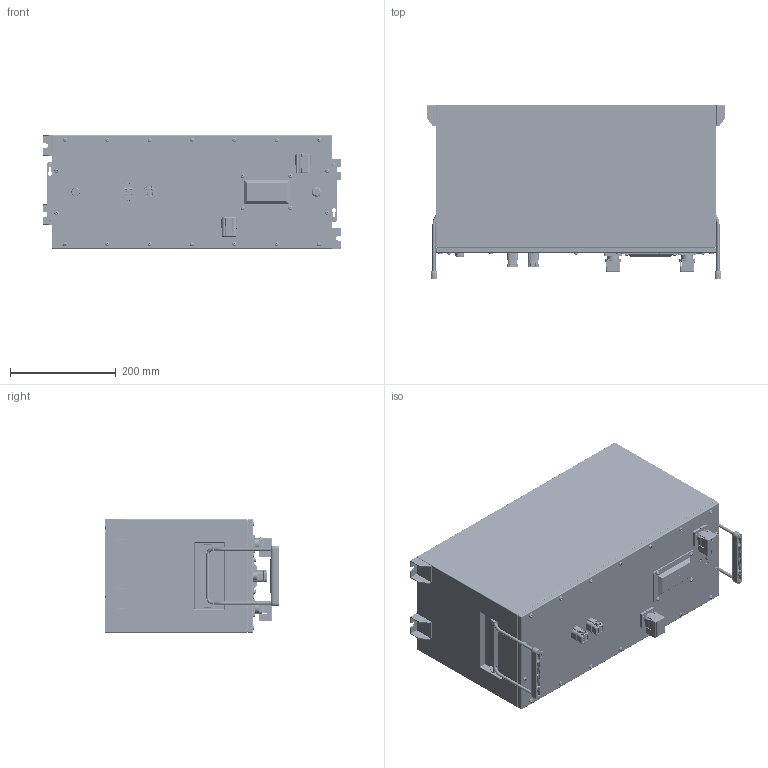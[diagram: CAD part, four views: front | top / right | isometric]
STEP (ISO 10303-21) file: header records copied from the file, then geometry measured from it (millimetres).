
FILE_DESCRIPTION (( 'STEP AP203' ), '1' );
FILE_NAME ('DLP-E-48V-module-Customer.STEP', '2024-12-10T18:52:10', ( '' ), ( '' ), 'SwSTEP 2.0', 'SolidWorks 2020', '' );
FILE_SCHEMA (( 'CONFIG_CONTROL_DESIGN' ));
Length unit declared in the file: millimetre
Products named in the file (37): ACTB309-SJ001_2_1.stp; SCREW_M4X10-W.stp; MIANGAI-01.stp; M4-BOLT.stp; C-DT15-6P-99-3D.stp; ACTB309-SJ002_8_1.stp; BS-M4.stp; ZHIJIA-6.stp; JYZ-20X20-M8.stp; PEM_SL-M8-1_ZI--S.stp; ACTB309_ASM_21_ASM_1_ASM.stp; ACTB309-C2-GAI001_13_1.stp; PEM_SL-M6-1_ZI--S.stp; ACTB309-GUIJIAO_9_1.stp; ACTB309-WJ001_11_1.stp; ACTB309-C2_ASM_ASM_1_ASM.stp; C-DT06-6S-CE01-B-3D.stp; M6-LUOGAN-180.stp; 16MMKAIGUAN.stp; ACTB309-C2_ASM.stp; GAIBAN-01.stp; GUIJIAODIAN-01.stp; GUIJIAODIAN-02.stp; ZHIJIA-04.stp; ACTB309-XXX-BODY_26_1.stp; TOUQIFA-2.stp; TISHOU.stp; RUANTONGPAI.stp; LASHENG-02.stp; ACTB309-C2_ASM_8_ASM_1_ASM.stp; DLP-E-48V-module-Customer; XIANGTI-01.stp; ANZHUANGZHIJIA-01.stp; ZHIJIA-7.stp; GUIJIAODIAN-03.stp; C-DT06-6S-E003-A-3D.stp; VERZLE_DIN_6923_-_M4.stp
Assembly tree (111 placements, depth 6):
  DLP-E-48V-module-Customer
    ACTB309-C2_ASM.stp  x2
      ACTB309-C2_ASM_ASM_1_ASM.stp
        ACTB309-C2_ASM_8_ASM_1_ASM.stp
          ACTB309_ASM_21_ASM_1_ASM.stp
            ACTB309-XXX-BODY_26_1.stp
            ACTB309-WJ001_11_1.stp
            ACTB309-SJ001_2_1.stp
            ACTB309-SJ002_8_1.stp
            ACTB309-GUIJIAO_9_1.stp
          ACTB309-C2-GAI001_13_1.stp
    XIANGTI-01.stp
    BS-M4.stp  x30
    MIANGAI-01.stp
    ZHIJIA-6.stp  x2
    PEM_SL-M6-1_ZI--S.stp  x4
    M6-LUOGAN-180.stp  x4
    16MMKAIGUAN.stp
    RUANTONGPAI.stp
    GUIJIAODIAN-01.stp
    ANZHUANGZHIJIA-01.stp  x4
    TOUQIFA-2.stp
    JYZ-20X20-M8.stp  x2
    GUIJIAODIAN-02.stp
    GAIBAN-01.stp
    GUIJIAODIAN-03.stp
    SCREW_M4X10-W.stp  x22
    M4-BOLT.stp  x4
    VERZLE_DIN_6923_-_M4.stp  x4
    ZHIJIA-04.stp  x2
    TISHOU.stp  x2
    LASHENG-02.stp  x2
    ZHIJIA-7.stp  x3
    PEM_SL-M8-1_ZI--S.stp  x2
    C-DT15-6P-99-3D.stp  x2
    C-DT06-6S-CE01-B-3D.stp
    C-DT06-6S-E003-A-3D.stp
Bounding box: 565 x 330 x 215 mm (x, y, z)
Volume: 1433437.3 mm3; surface area: 1856699.2 mm2
Topology: 82 solids, 143 shells, 12271 faces, 31484 edges, 19753 vertices
Faces by surface type: plane 7133, cylinder 2945, bspline 858, cone 671, torus 562, sphere 102
Entity records: 180001 total; most frequent: CARTESIAN_POINT 73153, ORIENTED_EDGE 21906, DIRECTION 19506, EDGE_CURVE 10955, VERTEX_POINT 6984, AXIS2_PLACEMENT_3D 6640, VECTOR 6226, LINE 6226
